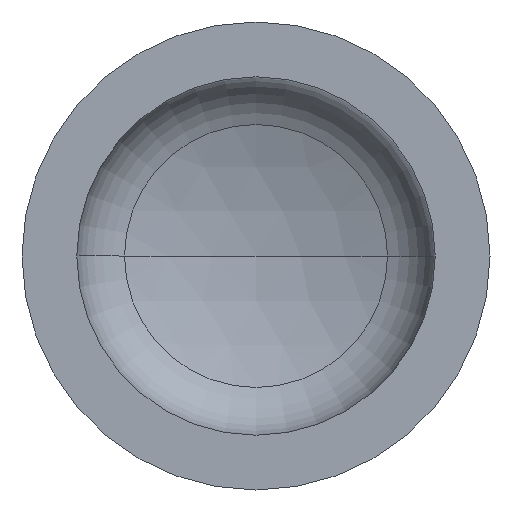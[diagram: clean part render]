
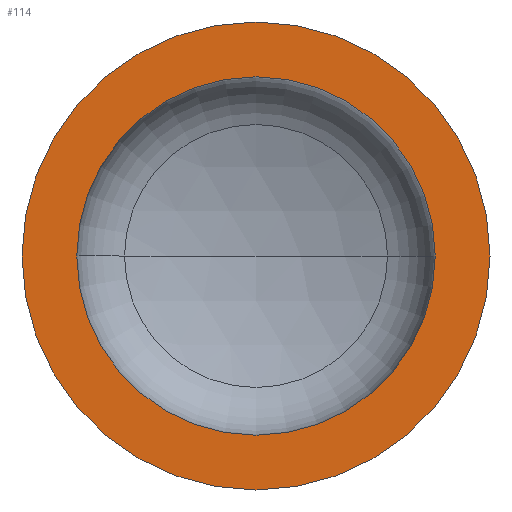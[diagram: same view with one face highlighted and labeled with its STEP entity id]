
A CAD part, front view. The second image highlights one B-rep face of the part: STEP entity #114.
In plain terms, the highlighted planar face has unit normal (0, -1, 0).
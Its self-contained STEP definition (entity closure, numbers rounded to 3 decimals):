
#4 = EDGE_LOOP ( 'NONE', ( #152, #121 ) ) ;
#19 = AXIS2_PLACEMENT_3D ( 'NONE', #342, #347, #204 ) ;
#27 = AXIS2_PLACEMENT_3D ( 'NONE', #334, #244, #171 ) ;
#28 = VERTEX_POINT ( 'NONE', #246 ) ;
#35 = AXIS2_PLACEMENT_3D ( 'NONE', #187, #361, #225 ) ;
#56 = ORIENTED_EDGE ( 'NONE', *, *, #93, .F. ) ;
#61 = EDGE_LOOP ( 'NONE', ( #56, #111 ) ) ;
#63 = AXIS2_PLACEMENT_3D ( 'NONE', #350, #348, #381 ) ;
#68 = AXIS2_PLACEMENT_3D ( 'NONE', #210, #346, #343 ) ;
#75 = VERTEX_POINT ( 'NONE', #357 ) ;
#91 = EDGE_CURVE ( 'NONE', #28, #75, #389, .T. ) ;
#93 = EDGE_CURVE ( 'NONE', #141, #131, #379, .T. ) ;
#111 = ORIENTED_EDGE ( 'NONE', *, *, #333, .F. ) ;
#114 = ADVANCED_FACE ( 'NONE', ( #181, #303 ), #229, .F. ) ;
#121 = ORIENTED_EDGE ( 'NONE', *, *, #91, .T. ) ;
#131 = VERTEX_POINT ( 'NONE', #386 ) ;
#141 = VERTEX_POINT ( 'NONE', #164 ) ;
#152 = ORIENTED_EDGE ( 'NONE', *, *, #356, .T. ) ;
#164 = CARTESIAN_POINT ( 'NONE',  ( 268., 0., 0. ) ) ;
#171 = DIRECTION ( 'NONE',  ( 1., 0., 0. ) ) ;
#181 = FACE_BOUND ( 'NONE', #61, .T. ) ;
#187 = CARTESIAN_POINT ( 'NONE',  ( -350., 0., 0. ) ) ;
#204 = DIRECTION ( 'NONE',  ( 1., 0., 0. ) ) ;
#210 = CARTESIAN_POINT ( 'NONE',  ( 0., 0., 0. ) ) ;
#225 = DIRECTION ( 'NONE',  ( -1., 0., 0. ) ) ;
#229 = PLANE ( 'NONE',  #35 ) ;
#244 = DIRECTION ( 'NONE',  ( 0., -1., 0. ) ) ;
#246 = CARTESIAN_POINT ( 'NONE',  ( -350., 0., 0. ) ) ;
#265 = CIRCLE ( 'NONE', #19, 350. ) ;
#303 = FACE_OUTER_BOUND ( 'NONE', #4, .T. ) ;
#333 = EDGE_CURVE ( 'NONE', #131, #141, #344, .T. ) ;
#334 = CARTESIAN_POINT ( 'NONE',  ( 0., 0., 0. ) ) ;
#342 = CARTESIAN_POINT ( 'NONE',  ( 0., 0., 0. ) ) ;
#343 = DIRECTION ( 'NONE',  ( 1., 0., 0. ) ) ;
#344 = CIRCLE ( 'NONE', #27, 268. ) ;
#346 = DIRECTION ( 'NONE',  ( 0., -1., 0. ) ) ;
#347 = DIRECTION ( 'NONE',  ( 0., -1., 0. ) ) ;
#348 = DIRECTION ( 'NONE',  ( 0., -1., 0. ) ) ;
#350 = CARTESIAN_POINT ( 'NONE',  ( 0., 0., 0. ) ) ;
#356 = EDGE_CURVE ( 'NONE', #75, #28, #265, .T. ) ;
#357 = CARTESIAN_POINT ( 'NONE',  ( 350., 0., 0. ) ) ;
#361 = DIRECTION ( 'NONE',  ( 0., 1., 0. ) ) ;
#379 = CIRCLE ( 'NONE', #63, 268. ) ;
#381 = DIRECTION ( 'NONE',  ( 1., 0., 0. ) ) ;
#386 = CARTESIAN_POINT ( 'NONE',  ( -268., 0., 0. ) ) ;
#389 = CIRCLE ( 'NONE', #68, 350. ) ;
